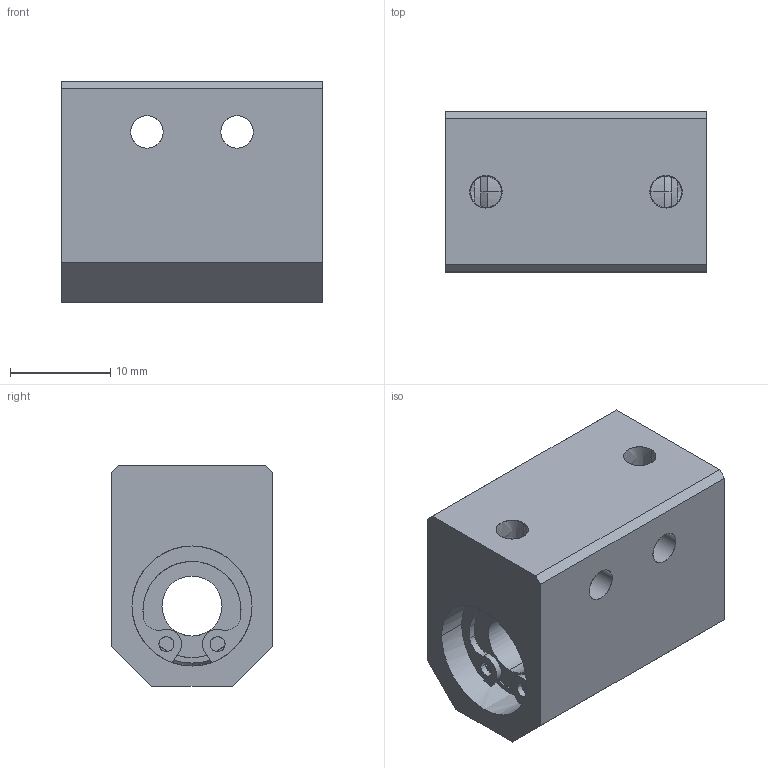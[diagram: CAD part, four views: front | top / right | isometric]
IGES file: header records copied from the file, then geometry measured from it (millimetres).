
Global section: file name: No Iges File Name specified; native system: AutoDesk Inventor R10; preprocessor: AutoDesk Inventor Iges Exporter R10; author: No Author specified; organization: No Organization specified; date: 20101213.093728; units: millimetre
Bounding box: 26 x 16 x 22 mm (x, y, z)
Surface area: 3997.9 mm2 (no closed solid volume)
Topology: 0 solids, 0 shells, 98 faces, 816 edges, 816 vertices
Faces by surface type: bspline 98
